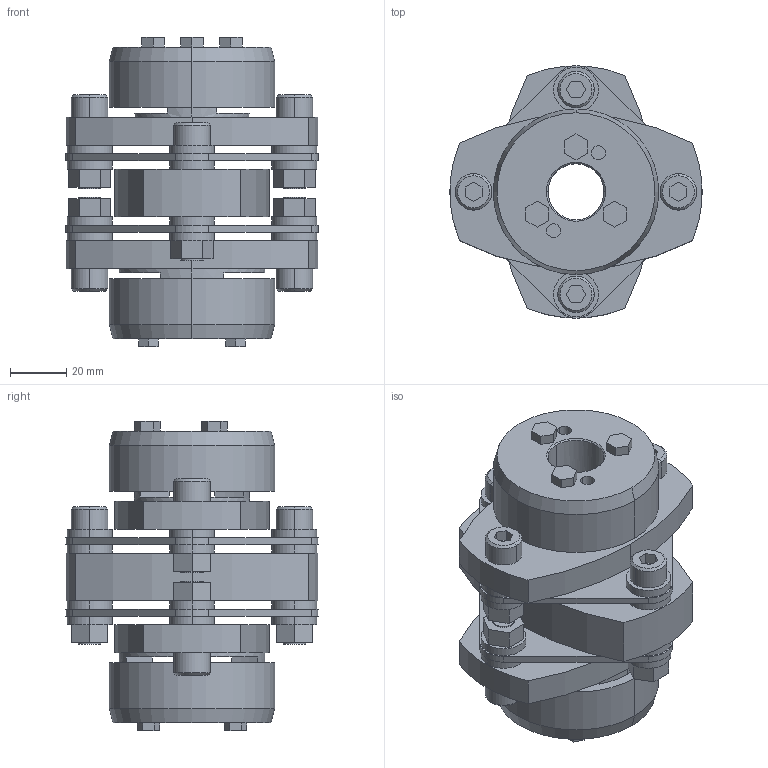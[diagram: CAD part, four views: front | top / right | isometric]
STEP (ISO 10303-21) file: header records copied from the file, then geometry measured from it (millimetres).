
FILE_DESCRIPTION((''),'2;1');
FILE_NAME('LCD-90T7-20×32.stp','2011-09-12T09:49:19',(''),(''),'AutoCAD STEP 2000i','AutoCAD 2000i',', , ');
FILE_SCHEMA(('CONFIG_CONTROL_DESIGN'));
Length unit declared in the file: millimetre
Products named in the file (8): LCD-90T7-19×32; 忣兜1; LC90T7-T032; LC90T7-T030; LC90T7-T025; LC90T7-T019-1; LC90T7-T019; LCD90-ITA
Assembly tree (7 placements, depth 2):
  LCD-90T7-19×32
    忣兜1
    LC90T7-T032
    LC90T7-T030
    LC90T7-T025
    LC90T7-T019-1
    LC90T7-T019
    LCD90-ITA
Bounding box: 90 x 89.94 x 110.3 mm (x, y, z)
Volume: 262027.7 mm3; surface area: 73052.7 mm2
Topology: 1 solids, 1 shells, 327 faces, 798 edges, 524 vertices
Faces by surface type: plane 183, cylinder 120, cone 24
Entity records: 9885 total; most frequent: DIRECTION 1748, CARTESIAN_POINT 1657, ORIENTED_EDGE 1596, EDGE_CURVE 798, AXIS2_PLACEMENT_3D 615, VERTEX_POINT 524, VECTOR 518, LINE 518
